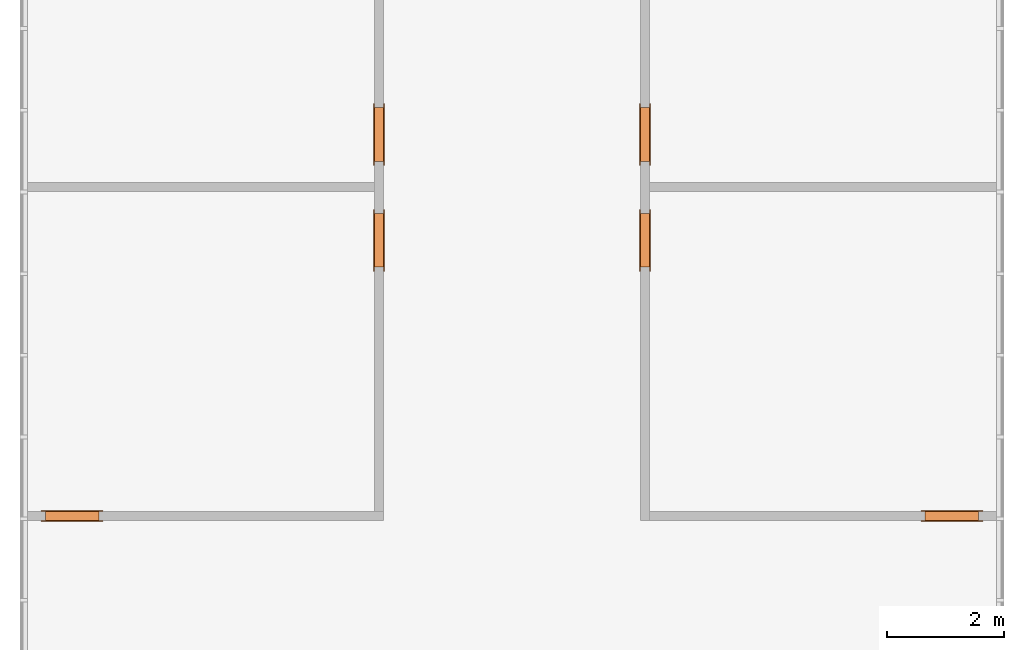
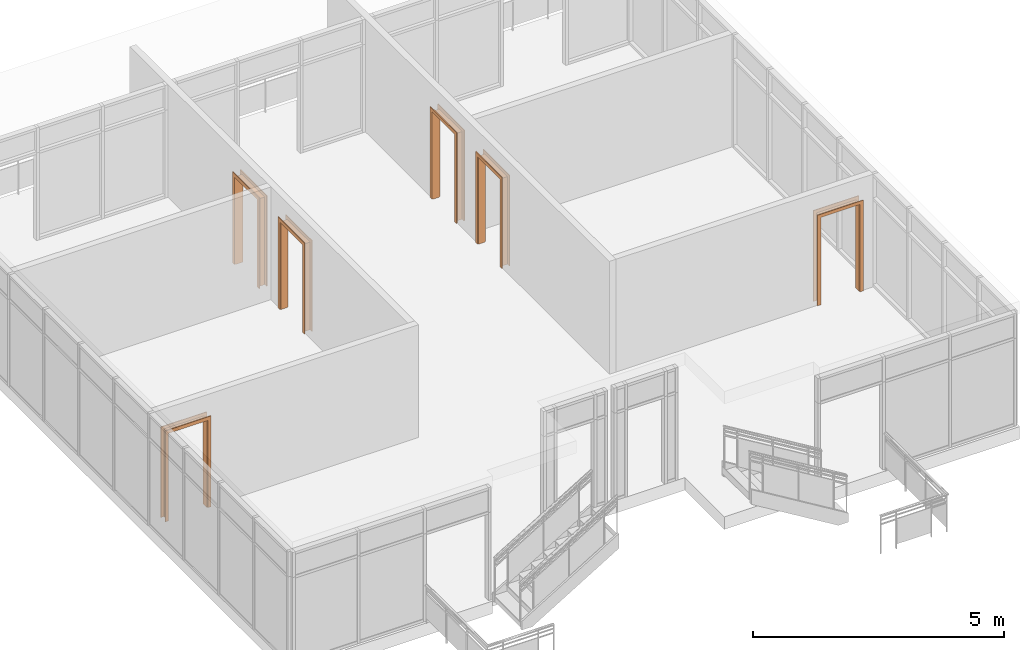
# One storey, part 11 of 11: 6 proxies.
"""IFC2X3 building model written with IfcOpenShell, lengths in feet."""

import ifcopenshell
import ifcopenshell.guid

model = None  # the IFC model being written
_history = None  # IfcOwnerHistory: only IFC2X3 demands one
_inside = {}  # id of a spatial element -> (the spatial element, [elements in it])
_under = {}  # id of a project, library or spatial element -> (it, [spatial elements below it])
_declared = {}  # id of a project -> (the project, [libraries it declares])
_typed = {}  # id of a type object -> (the type object, [elements of that type])
_made_of = {}  # id of a material, layer set ... -> (it, [elements and type objects made of it])


def new_model(schema):
    """Start an empty IFC model of exactly this schema.

    Asked for "IFC4X3", IfcOpenShell would pick the latest addendum, in which some entities
    have other attributes; the version numbers below select the first issue.
    IFC2X3 requires an IfcOwnerHistory on every rooted entity: one is made here for all.
    """
    global model, _history
    if schema == "IFC4X3":
        model = ifcopenshell.file(schema_version=(4, 3, 0, 0))
    else:
        model = ifcopenshell.file(schema=schema)
    _inside.clear()
    _under.clear()
    _declared.clear()
    _typed.clear()
    _made_of.clear()
    _history = None
    if model.schema == "IFC2X3":
        org = make("IfcOrganization", Name="unknown")
        user = make(
            "IfcPersonAndOrganization",
            ThePerson=make("IfcPerson", FamilyName="unknown"),
            TheOrganization=org,
        )
        app = make(
            "IfcApplication",
            ApplicationDeveloper=org,
            Version="unknown",
            ApplicationFullName="unknown",
            ApplicationIdentifier="unknown",
        )
        _history = make(
            "IfcOwnerHistory",
            OwningUser=user,
            OwningApplication=app,
            ChangeAction="ADDED",
            CreationDate=0,
        )
    return model


def make(cls, **values):
    """One entity of the class cls with the attributes given. An attribute that is None is left unset."""
    return model.create_entity(
        cls, **{name: value for name, value in values.items() if value is not None}
    )


def entity(cls, *values):
    """Any entity or typed value of the class cls, its attributes in the order of the schema. None: left unset."""
    e = model.create_entity(cls)
    for i, value in enumerate(values):
        if value is not None:
            e[i] = value
    return e


def rooted(cls, **values):
    """An entity with a GlobalId (a new one), such as an element, a storey or a relation."""
    return make(cls, GlobalId=ifcopenshell.guid.new(), OwnerHistory=_history, **values)


def si_unit(unit_type, name, prefix=None):
    """IfcSIUnit, for example si_unit("LENGTHUNIT", "METRE", prefix="MILLI")."""
    return make("IfcSIUnit", UnitType=unit_type, Prefix=prefix, Name=name)


def converted_unit(unit_type, name, factor, base, dimensions=None, offset=None):
    """IfcConversionBasedUnit, such as the inch: factor (a typed value) times the base unit."""
    return make(
        "IfcConversionBasedUnit"
        if offset is None
        else "IfcConversionBasedUnitWithOffset",
        ConversionOffset=offset,
        Dimensions=None
        if dimensions is None
        else entity("IfcDimensionalExponents", *dimensions),
        UnitType=unit_type,
        Name=name,
        ConversionFactor=make(
            "IfcMeasureWithUnit", ValueComponent=factor, UnitComponent=base
        ),
    )


def derived_unit(unit_type, elements):
    """IfcDerivedUnit: a product of units, each with its exponent."""
    return make(
        "IfcDerivedUnit",
        Elements=[
            make("IfcDerivedUnitElement", Unit=unit, Exponent=power)
            for unit, power in elements
        ],
        UnitType=unit_type,
    )


def assignment(units):
    """IfcUnitAssignment: the units of a project."""
    return None if units is None else make("IfcUnitAssignment", Units=units)


def point(xyz):
    """IfcCartesianPoint."""
    return None if xyz is None else make("IfcCartesianPoint", Coordinates=xyz)


def direction(xyz):
    """IfcDirection."""
    return None if xyz is None else make("IfcDirection", DirectionRatios=xyz)


def frame(location, z_axis=None, x_axis=None):
    """IfcAxis2Placement3D, a coordinate frame: its origin and axes. An axis left out is left unset."""
    return make(
        "IfcAxis2Placement3D",
        Location=point(location),
        Axis=direction(z_axis),
        RefDirection=direction(x_axis),
    )


def origin():
    """The frame at (0, 0, 0) with its axes left unset."""
    return frame((0.0, 0.0, 0.0))


def place(relative_to, where):
    """IfcLocalPlacement: puts the frame where relative to a parent placement (None: the world)."""
    return make(
        "IfcLocalPlacement", PlacementRelTo=relative_to, RelativePlacement=where
    )


def context(
    kind, dimensions, precision=None, world=None, true_north=None, identifier=None
):
    """IfcGeometricRepresentationContext, for example the 3D "Model" context."""
    return make(
        "IfcGeometricRepresentationContext",
        ContextIdentifier=identifier,
        ContextType=kind,
        CoordinateSpaceDimension=dimensions,
        Precision=precision,
        WorldCoordinateSystem=world,
        TrueNorth=true_north,
    )


def subcontext(parent, identifier, kind, view, scale=None):
    """IfcGeometricRepresentationSubContext, for example "Body" below "Model"."""
    return make(
        "IfcGeometricRepresentationSubContext",
        ContextIdentifier=identifier,
        ContextType=kind,
        ParentContext=parent,
        TargetScale=scale,
        TargetView=view,
    )


def project(units=None, contexts=None):
    """IfcProject with its units and contexts."""
    return rooted(
        "IfcProject",
        Name="project",
        RepresentationContexts=contexts,
        UnitsInContext=assignment(units),
    )


def spatial(cls, under=None, at=None, **own):
    """A site, building, storey or space (cls), placed at a placement, below another one or the project."""
    s = rooted(cls, ObjectPlacement=at, **own)
    if under is not None:
        _under.setdefault(under.id(), (under, []))[1].append(s)
    return s


def faces_of(points, faces, orient=None, outer=None):
    """IfcFace entities. A face is a list of loops; a loop is a list of indices into points, from 0.

    orient and outer hold one flag for each loop. By default every Orientation is true, the
    first loop of a face is its IfcFaceOuterBound and the others are IfcFaceBound.
    """
    made = []
    for i, loops in enumerate(faces):
        bounds = []
        for j, loop in enumerate(loops):
            is_outer = j == 0 if outer is None else outer[i][j]
            bounds.append(
                make(
                    "IfcFaceOuterBound" if is_outer else "IfcFaceBound",
                    Bound=make("IfcPolyLoop", Polygon=[points[k] for k in loop]),
                    Orientation=True if orient is None else orient[i][j],
                )
            )
        made.append(make("IfcFace", Bounds=bounds))
    return made


def faceted_brep(points, faces, orient=None, outer=None, voids=None):
    """IfcFacetedBrep: a solid bounded by flat faces; with voids (closed shells), ...WithVoids."""
    shared = [point(p) for p in points]
    hull = make("IfcClosedShell", CfsFaces=faces_of(shared, faces, orient, outer))
    if voids is None:
        return make("IfcFacetedBrep", Outer=hull)
    return make(
        "IfcFacetedBrepWithVoids",
        Outer=hull,
        Voids=[
            make(cls, CfsFaces=faces_of(shared, fs, o, b)) for cls, fs, o, b in voids
        ],
    )


def shape(context_of_items, identifier, shape_type, items):
    """IfcShapeRepresentation: the items that make up one representation, for example the "Body"."""
    return make(
        "IfcShapeRepresentation",
        ContextOfItems=context_of_items,
        RepresentationIdentifier=identifier,
        RepresentationType=shape_type,
        Items=items,
    )


def source(mapping_origin, context_of_items, identifier, shape_type, items):
    """IfcRepresentationMap: a shape defined once, which mapped items show again and again."""
    return make(
        "IfcRepresentationMap",
        MappingOrigin=mapping_origin,
        MappedRepresentation=shape(context_of_items, identifier, shape_type, items),
    )


def transform(
    local_origin,
    x_axis=None,
    y_axis=None,
    z_axis=None,
    scale=None,
    scale2=None,
    scale3=None,
    uniform=True,
):
    """IfcCartesianTransformationOperator3D, or its non-uniform kind. x_axis, y_axis, z_axis: its Axis1, 2, 3."""
    if uniform:
        return make(
            "IfcCartesianTransformationOperator3D",
            Axis1=direction(x_axis),
            Axis2=direction(y_axis),
            LocalOrigin=point(local_origin),
            Scale=scale,
            Axis3=direction(z_axis),
        )
    return make(
        "IfcCartesianTransformationOperator3DnonUniform",
        Axis1=direction(x_axis),
        Axis2=direction(y_axis),
        LocalOrigin=point(local_origin),
        Scale=scale,
        Axis3=direction(z_axis),
        Scale2=scale2,
        Scale3=scale3,
    )


def mapped(mapping_source, mapping_target):
    """IfcMappedItem: shows the shape of a source again, moved by a transform."""
    return make(
        "IfcMappedItem", MappingSource=mapping_source, MappingTarget=mapping_target
    )


def material(Name=None, Category=None):
    """IfcMaterial."""
    return make("IfcMaterial", Name=Name, Category=Category)


def made_of(thing, what):
    """Note that an element or type object is made of a material, layer set ...; save() writes the relation."""
    if what is not None:
        _made_of.setdefault(what.id(), (what, []))[1].append(thing)
    return thing


def type_object(cls, material=None, **own):
    """A type object (cls), such as IfcWallType, which elements share."""
    return made_of(rooted(cls, **own), material)


def type_shapes(of_type, sources):
    """Give a type object the sources (RepresentationMaps) that its elements show as mapped items."""
    of_type.RepresentationMaps = sources


def element(
    cls,
    number,
    at=None,
    inside=None,
    cuts=None,
    type_object=None,
    material=None,
    context=None,
    identifier="Body",
    shape_type=None,
    held_by="IfcProductDefinitionShape",
    body=None,
    shapes=None,
    **own,
):
    """One element of the class cls, such as IfcWall. Its Tag is "e" and its number.

    at: its placement. inside: the storey or other place that contains it. cuts: it is an
    opening in that element (IfcRelVoidsElement). A single representation is given by context,
    identifier, shape_type and body (its items); several are given by shapes. held_by: the class
    of the entity that holds the representations. save() writes the other relations.
    """
    e = rooted(cls, Tag="e%d" % number, ObjectPlacement=at, **own)
    if body is not None:
        shapes = [shape(context, identifier, shape_type, body)]
    if shapes is not None:
        e.Representation = make(held_by, Representations=shapes)
    if inside is not None:
        _inside.setdefault(inside.id(), (inside, []))[1].append(e)
    if cuts is not None:
        rooted(
            "IfcRelVoidsElement", RelatingBuildingElement=cuts, RelatedOpeningElement=e
        )
    if type_object is not None:
        _typed.setdefault(type_object.id(), (type_object, []))[1].append(e)
    return made_of(e, material)


def aggregate(whole, parts):
    """IfcRelAggregates: a whole, such as a stair, and the parts it consists of."""
    return rooted("IfcRelAggregates", RelatingObject=whole, RelatedObjects=parts)


def save(model, path):
    """Write the relations noted so far, then the file.

    IfcRelAggregates (storeys below a building ...), IfcRelContainedInSpatialStructure (elements
    in a storey), IfcRelDefinesByType, IfcRelAssociatesMaterial and IfcRelDeclares: one each for
    every whole, place, type object, material and project.
    """
    for whole, parts in _under.values():
        aggregate(whole, parts)
    for where, things in _inside.values():
        rooted(
            "IfcRelContainedInSpatialStructure",
            RelatedElements=things,
            RelatingStructure=where,
        )
    for kind, things in _typed.values():
        rooted("IfcRelDefinesByType", RelatedObjects=things, RelatingType=kind)
    for what, things in _made_of.values():
        rooted("IfcRelAssociatesMaterial", RelatedObjects=things, RelatingMaterial=what)
    for by, libraries in _declared.values():
        rooted("IfcRelDeclares", RelatingContext=by, RelatedDefinitions=libraries)
    model.write(path)


model = new_model("IFC2X3")

# Units and contexts
model_context = context("Model", 3, precision=0.0001, world=origin(), true_north=direction((6.12303176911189e-17, 1.0)))
body_context = subcontext(model_context, "Body", "Model", "MODEL_VIEW")
ifc_project = project(units=[converted_unit("LENGTHUNIT", "FOOT", entity("IfcRatioMeasure", 0.3048), si_unit("LENGTHUNIT", "METRE"), dimensions=[1, 0, 0, 0, 0, 0, 0]), converted_unit("AREAUNIT", "SQUARE FOOT", entity("IfcRatioMeasure", 0.09290304), si_unit("AREAUNIT", "SQUARE_METRE"), dimensions=[2, 0, 0, 0, 0, 0, 0]), converted_unit("VOLUMEUNIT", "CUBIC FOOT", entity("IfcRatioMeasure", 0.028316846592), si_unit("VOLUMEUNIT", "CUBIC_METRE"), dimensions=[3, 0, 0, 0, 0, 0, 0]), converted_unit("PLANEANGLEUNIT", "DEGREE", entity("IfcRatioMeasure", 0.0174532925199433), si_unit("PLANEANGLEUNIT", "RADIAN"), dimensions=[0, 0, 0, 0, 0, 0, 0]), si_unit("MASSUNIT", "GRAM", prefix="KILO"), derived_unit("MASSDENSITYUNIT", [(si_unit("MASSUNIT", "GRAM", prefix="KILO"), 1), (si_unit("LENGTHUNIT", "METRE"), -3)]), si_unit("TIMEUNIT", "SECOND"), si_unit("FREQUENCYUNIT", "HERTZ"), si_unit("THERMODYNAMICTEMPERATUREUNIT", "DEGREE_CELSIUS"), derived_unit("THERMALTRANSMITTANCEUNIT", [(si_unit("MASSUNIT", "GRAM", prefix="KILO"), 1), (si_unit("THERMODYNAMICTEMPERATUREUNIT", "KELVIN"), -1), (si_unit("TIMEUNIT", "SECOND"), -3)]), derived_unit("VOLUMETRICFLOWRATEUNIT", [(si_unit("LENGTHUNIT", "METRE"), 3), (si_unit("TIMEUNIT", "SECOND"), -1)]), si_unit("ELECTRICCURRENTUNIT", "AMPERE"), si_unit("ELECTRICVOLTAGEUNIT", "VOLT"), si_unit("POWERUNIT", "WATT"), si_unit("FORCEUNIT", "NEWTON"), si_unit("ILLUMINANCEUNIT", "LUX"), si_unit("LUMINOUSFLUXUNIT", "LUMEN"), si_unit("LUMINOUSINTENSITYUNIT", "CANDELA"), derived_unit("USERDEFINED", [(si_unit("MASSUNIT", "GRAM", prefix="KILO"), -1), (si_unit("LENGTHUNIT", "METRE"), -2), (si_unit("TIMEUNIT", "SECOND"), 3), (si_unit("LUMINOUSFLUXUNIT", "LUMEN"), 1)]), derived_unit("LINEARVELOCITYUNIT", [(si_unit("LENGTHUNIT", "METRE"), 1), (si_unit("TIMEUNIT", "SECOND"), -1)]), si_unit("PRESSUREUNIT", "PASCAL"), derived_unit("USERDEFINED", [(si_unit("LENGTHUNIT", "METRE"), -2), (si_unit("MASSUNIT", "GRAM", prefix="KILO"), 1), (si_unit("TIMEUNIT", "SECOND"), -2)])], contexts=[model_context])

# Site, building, storey
site_placement = place(None, origin())
site = spatial("IfcSite", under=ifc_project, at=site_placement, Name="Default", CompositionType="ELEMENT")
building_placement = place(site_placement, origin())
building = spatial("IfcBuilding", under=site, at=building_placement, CompositionType="ELEMENT")
storey_placement = place(building_placement, frame((0.0, 0.0, 50.0)))
storey = spatial("IfcBuildingStorey", under=building, at=storey_placement, Name="L 9", CompositionType="ELEMENT", Elevation=49.9999999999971)

# Proxies
ifc_material = material(Name="Door - Frame")
building_element_proxy_type = type_object("IfcBuildingElementProxyType", Name="36\" x 84\"", PredefinedType="NOTDEFINED", material=ifc_material)
shared_shape = source(origin(), body_context, "Body", "Brep", [
    faceted_brep([(-1.50603233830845, -0.312500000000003, 0.0), (-1.50603233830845, -0.312500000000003, 6.97916666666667), (1.45230099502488, -0.312500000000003, 6.97916666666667), (1.45230099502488, -0.312500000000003, 0.0), (1.70230099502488, -0.312500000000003, 0.0), (1.70230099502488, -0.312500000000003, 7.22916666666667), (-1.75603233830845, -0.312500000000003, 7.22916666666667), (-1.75603233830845, -0.312500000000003, 0.0), (-1.50603233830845, -0.25, 0.0), (-1.75603233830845, -0.25, 0.0), (-1.75603233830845, -0.25, 7.22916666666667), (1.70230099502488, -0.25, 7.22916666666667), (1.70230099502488, -0.25, 0.0), (1.45230099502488, -0.25, 0.0), (1.45230099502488, -0.25, 6.97916666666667), (-1.50603233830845, -0.25, 6.97916666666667)], [[[0, 1, 2, 3, 4, 5, 6, 7]], [[8, 9, 10, 11, 12, 13, 14, 15]], [[1, 0, 8, 15]], [[2, 1, 15, 14]], [[3, 2, 14, 13]], [[4, 3, 13, 12]], [[5, 4, 12, 11]], [[6, 5, 11, 10]], [[7, 6, 10, 9]], [[0, 7, 9, 8]]]),
    faceted_brep([(1.70230099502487, 0.312500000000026, 0.0), (1.45230099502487, 0.312500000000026, 0.0), (1.45230099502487, 0.312500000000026, 6.97916666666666), (-1.50603233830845, 0.312500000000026, 6.97916666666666), (-1.50603233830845, 0.312500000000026, 0.0), (-1.75603233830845, 0.312500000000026, 0.0), (-1.75603233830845, 0.312500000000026, 7.25), (1.70230099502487, 0.312500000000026, 7.25), (1.70230099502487, 0.25, 0.0), (1.70230099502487, 0.25, 7.25), (-1.75603233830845, 0.25, 7.25), (-1.75603233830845, 0.25, 0.0), (-1.50603233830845, 0.25, 0.0), (-1.50603233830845, 0.25, 6.97916666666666), (1.45230099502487, 0.25, 6.97916666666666), (1.45230099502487, 0.25, 0.0)], [[[0, 1, 2, 3, 4, 5, 6, 7]], [[8, 9, 10, 11, 12, 13, 14, 15]], [[1, 0, 8, 15]], [[2, 1, 15, 14]], [[3, 2, 14, 13]], [[4, 3, 13, 12]], [[5, 4, 12, 11]], [[6, 5, 11, 10]], [[7, 6, 10, 9]], [[0, 7, 9, 8]]]),
    faceted_brep([(1.41063432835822, 0.25, 0.0), (1.47313432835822, 0.25, 0.0), (1.47313432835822, -0.25, 0.0), (1.41063432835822, -0.25, 0.0), (1.41063432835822, 0.25, 6.9375), (1.47313432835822, 0.25, 7.0), (1.47313432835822, -0.25, 7.0), (1.41063432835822, -0.25, 6.9375), (-1.46436567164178, 0.25, 6.9375), (-1.52686567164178, 0.25, 7.0), (-1.52686567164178, -0.25, 7.0), (-1.46436567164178, -0.25, 6.9375), (-1.46436567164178, 0.25, 0.0), (-1.46436567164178, -0.25, 0.0), (-1.52686567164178, -0.25, 0.0), (-1.52686567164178, 0.25, 0.0)], [[[0, 1, 2, 3]], [[1, 0, 4, 5]], [[2, 1, 5, 6]], [[3, 2, 6, 7]], [[0, 3, 7, 4]], [[5, 4, 8, 9]], [[6, 5, 9, 10]], [[7, 6, 10, 11]], [[4, 7, 11, 8]], [[12, 13, 14, 15]], [[9, 8, 12, 15]], [[10, 9, 15, 14]], [[11, 10, 14, 13]], [[8, 11, 13, 12]]]),
])
type_shapes(building_element_proxy_type, [shared_shape])
for number, where, z_axis, x_axis in (
    (1, (-41.4463748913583, 32.8773910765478, 0.0), (0.0, 0.0, 1.0), (0.0, 1.0, 0.0)),
    (2, (-41.4463748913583, 26.9468355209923, 0.0), (0.0, 0.0, 1.0), (0.0, 1.0, 0.0)),
    (3, (-26.5372839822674, 26.9468355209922, 0.0), (0.0, 0.0, 1.0), (0.0, 1.0, 0.0)),
    (4, (-26.5372839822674, 32.8236597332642, 0.0), (0.0, 0.0, 1.0), (0.0, -1.0, 0.0)),
):
    element("IfcBuildingElementProxy", number, at=place(storey_placement, frame(where, z_axis=z_axis, x_axis=x_axis)), inside=storey, type_object=building_element_proxy_type, material=ifc_material, Name="Passage Opening-Cased:36\" x 84\"", ObjectType="36\" x 84\"", context=body_context, shape_type="MappedRepresentation", body=[
        mapped(shared_shape, transform((0.0, 0.0, 0.0), scale=1.0)),
    ])
proxy_1_placement = place(storey_placement, frame((-9.33996376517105, 11.4894142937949, 0.0)))
element("IfcBuildingElementProxy", 5, at=proxy_1_placement, inside=storey, type_object=building_element_proxy_type, material=ifc_material, Name="Passage Opening-Cased:36\" x 84\"", ObjectType="36\" x 84\"", context=body_context, shape_type="MappedRepresentation", body=[
    mapped(shared_shape, transform((0.0, 0.0, 0.0), scale=1.0)),
])
proxy_2_placement = place(storey_placement, frame((-58.6436951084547, 11.489414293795, 0.0), z_axis=(0.0, 0.0, 1.0), x_axis=(-1.0, 0.0, 0.0)))
element("IfcBuildingElementProxy", 6, at=proxy_2_placement, inside=storey, type_object=building_element_proxy_type, material=ifc_material, Name="Passage Opening-Cased:36\" x 84\"", ObjectType="36\" x 84\"", context=body_context, shape_type="MappedRepresentation", body=[
    mapped(shared_shape, transform((0.0, 0.0, 0.0), scale=1.0)),
])

save(model, "model.ifc")
